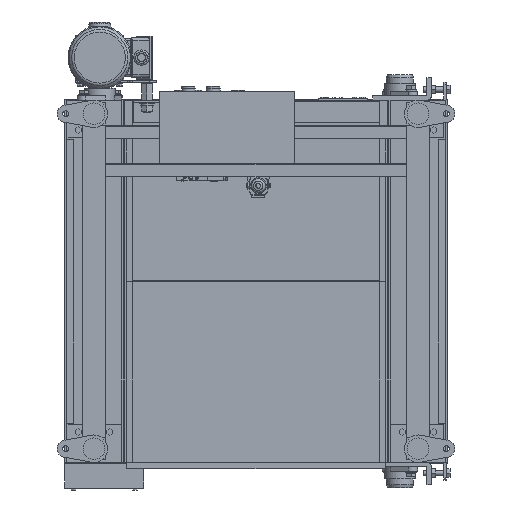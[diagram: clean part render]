
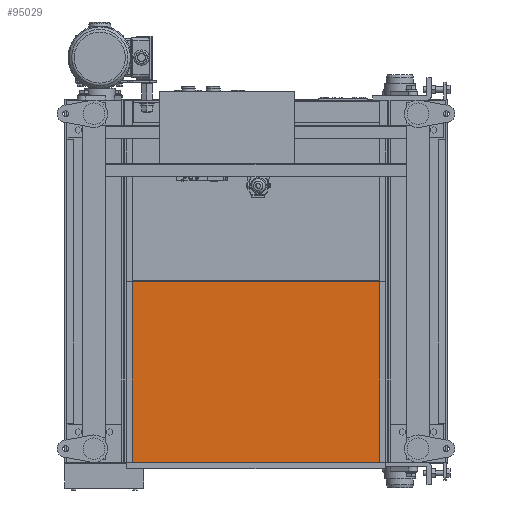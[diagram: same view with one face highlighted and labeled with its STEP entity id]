
A CAD part, front view. The second image highlights one B-rep face of the part: STEP entity #95029.
In plain terms, the highlighted planar face has unit normal (0, -1, 0).
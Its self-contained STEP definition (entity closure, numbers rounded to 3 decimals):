
#11107 = DIRECTION ( 'NONE',  ( 0., 1., 0. ) ) ;
#14224 = VECTOR ( 'NONE', #19920, 1000. ) ;
#19920 = DIRECTION ( 'NONE',  ( 0., 0., -1. ) ) ;
#21401 = CARTESIAN_POINT ( 'NONE',  ( 137.5, -165., 0. ) ) ;
#23518 = VERTEX_POINT ( 'NONE', #25234 ) ;
#25234 = CARTESIAN_POINT ( 'NONE',  ( 712.5, -165., 0. ) ) ;
#26182 = EDGE_CURVE ( 'NONE', #37493, #23518, #148043, .T. ) ;
#33139 = VERTEX_POINT ( 'NONE', #73783 ) ;
#36832 = CARTESIAN_POINT ( 'NONE',  ( 712.5, -165., -403.2 ) ) ;
#37493 = VERTEX_POINT ( 'NONE', #21401 ) ;
#44221 = ORIENTED_EDGE ( 'NONE', *, *, #26182, .F. ) ;
#44463 = DIRECTION ( 'NONE',  ( -1., 0., 0. ) ) ;
#50643 = EDGE_CURVE ( 'NONE', #23518, #145076, #75127, .T. ) ;
#55359 = VECTOR ( 'NONE', #44463, 1000. ) ;
#66701 = FACE_OUTER_BOUND ( 'NONE', #75028, .T. ) ;
#70137 = EDGE_CURVE ( 'NONE', #145076, #33139, #114542, .T. ) ;
#73783 = CARTESIAN_POINT ( 'NONE',  ( 137.5, -165., -403.2 ) ) ;
#75028 = EDGE_LOOP ( 'NONE', ( #102239, #44221, #86151, #95572 ) ) ;
#75127 = LINE ( 'NONE', #89074, #14224 ) ;
#80937 = CARTESIAN_POINT ( 'NONE',  ( 137.5, -165., 0. ) ) ;
#86151 = ORIENTED_EDGE ( 'NONE', *, *, #142492, .F. ) ;
#89074 = CARTESIAN_POINT ( 'NONE',  ( 712.5, -165., 0. ) ) ;
#91495 = DIRECTION ( 'NONE',  ( 0., 0., 1. ) ) ;
#91715 = CARTESIAN_POINT ( 'NONE',  ( 425., -165., -402. ) ) ;
#95029 = ADVANCED_FACE ( 'NONE', ( #66701 ), #114861, .F. ) ;
#95572 = ORIENTED_EDGE ( 'NONE', *, *, #70137, .F. ) ;
#102239 = ORIENTED_EDGE ( 'NONE', *, *, #50643, .F. ) ;
#108580 = AXIS2_PLACEMENT_3D ( 'NONE', #91715, #11107, #115372 ) ;
#108634 = VECTOR ( 'NONE', #112060, 1000. ) ;
#112060 = DIRECTION ( 'NONE',  ( 1., 0., 0. ) ) ;
#113522 = CARTESIAN_POINT ( 'NONE',  ( 712.5, -165., 0. ) ) ;
#114542 = LINE ( 'NONE', #123660, #55359 ) ;
#114861 = PLANE ( 'NONE',  #108580 ) ;
#114901 = LINE ( 'NONE', #80937, #116614 ) ;
#115372 = DIRECTION ( 'NONE',  ( 0., 0., -1. ) ) ;
#116614 = VECTOR ( 'NONE', #91495, 1000. ) ;
#123660 = CARTESIAN_POINT ( 'NONE',  ( 712.5, -165., -403.2 ) ) ;
#142492 = EDGE_CURVE ( 'NONE', #33139, #37493, #114901, .T. ) ;
#145076 = VERTEX_POINT ( 'NONE', #36832 ) ;
#148043 = LINE ( 'NONE', #113522, #108634 ) ;
